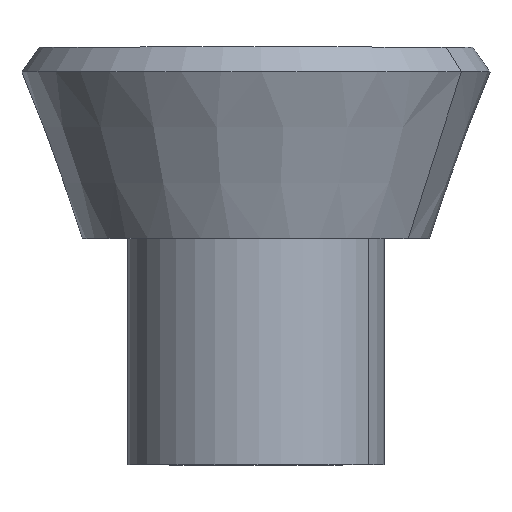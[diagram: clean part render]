
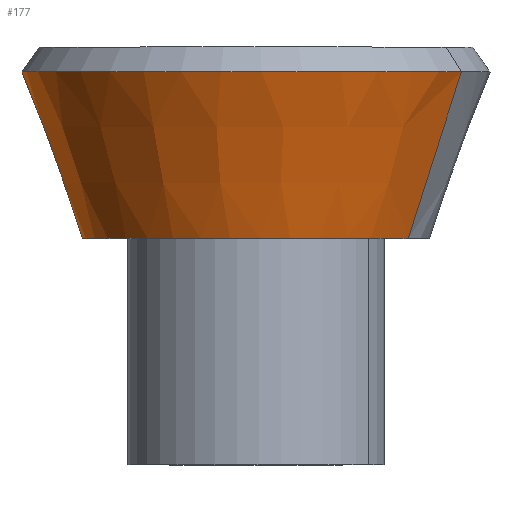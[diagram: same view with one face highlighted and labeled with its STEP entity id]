
A CAD part, top view. The second image highlights one B-rep face of the part: STEP entity #177.
In plain terms, the highlighted conical face has half-angle 20 degrees and reference radius 115 mm.
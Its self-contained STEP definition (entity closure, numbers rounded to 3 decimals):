
#114=CARTESIAN_POINT('Axis2P3D Location',(0.,0.,0.)) ;
#118=CARTESIAN_POINT('Vertex',(100.922,0.,55.134)) ;
#120=CARTESIAN_POINT('Vertex',(-100.922,0.,-55.134)) ;
#147=CARTESIAN_POINT('Axis2P3D Location',(0.,0.,0.)) ;
#152=CARTESIAN_POINT('Line Origine',(118.566,55.238,64.773)) ;
#156=CARTESIAN_POINT('Vertex',(136.209,110.475,74.412)) ;
#159=CARTESIAN_POINT('Axis2P3D Location',(0.,110.475,0.)) ;
#163=CARTESIAN_POINT('Vertex',(-136.209,110.475,-74.412)) ;
#166=CARTESIAN_POINT('Line Origine',(-118.566,55.238,-64.773)) ;
#115=DIRECTION('Axis2P3D Direction',(0.,-1.,0.)) ;
#148=DIRECTION('Axis2P3D Direction',(-0.,1.,-0.)) ;
#149=DIRECTION('Axis2P3D XDirection',(0.878,0.,0.479)) ;
#153=DIRECTION('Vector Direction',(0.3,0.94,0.164)) ;
#160=DIRECTION('Axis2P3D Direction',(0.,1.,-0.)) ;
#167=DIRECTION('Vector Direction',(-0.3,0.94,-0.164)) ;
#116=AXIS2_PLACEMENT_3D('Circle Axis2P3D',#114,#115,$) ;
#150=AXIS2_PLACEMENT_3D('Cone Axis2P3D',#147,#148,#149) ;
#161=AXIS2_PLACEMENT_3D('Circle Axis2P3D',#159,#160,$) ;
#172=ORIENTED_EDGE('',*,*,#122,.F.) ;
#173=ORIENTED_EDGE('',*,*,#158,.T.) ;
#174=ORIENTED_EDGE('',*,*,#165,.T.) ;
#175=ORIENTED_EDGE('',*,*,#170,.F.) ;
#154=VECTOR('Line Direction',#153,1.) ;
#168=VECTOR('Line Direction',#167,1.) ;
#177=ADVANCED_FACE('PartBody',(#176),#151,.T.) ;
#117=CIRCLE('generated circle',#116,115.) ;
#162=CIRCLE('generated circle',#161,155.21) ;
#151=CONICAL_SURFACE('Cone',#150,115.,0.349) ;
#122=EDGE_CURVE('',#119,#121,#117,.T.) ;
#158=EDGE_CURVE('',#119,#157,#155,.T.) ;
#165=EDGE_CURVE('',#157,#164,#162,.F.) ;
#170=EDGE_CURVE('',#121,#164,#169,.T.) ;
#171=EDGE_LOOP('',(#172,#173,#174,#175)) ;
#176=FACE_OUTER_BOUND('',#171,.T.) ;
#155=LINE('Line',#152,#154) ;
#169=LINE('Line',#166,#168) ;
#119=VERTEX_POINT('',#118) ;
#121=VERTEX_POINT('',#120) ;
#157=VERTEX_POINT('',#156) ;
#164=VERTEX_POINT('',#163) ;
